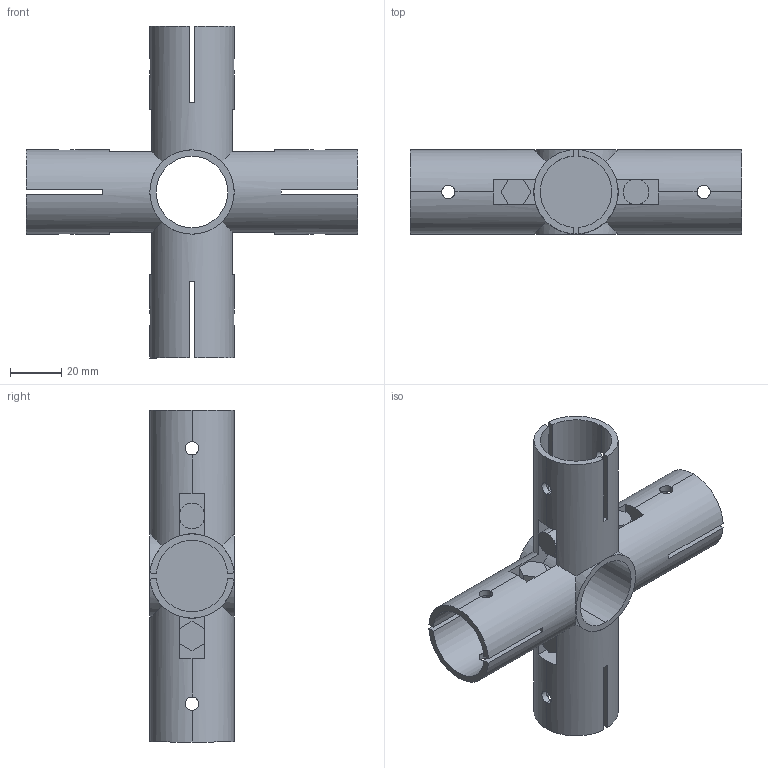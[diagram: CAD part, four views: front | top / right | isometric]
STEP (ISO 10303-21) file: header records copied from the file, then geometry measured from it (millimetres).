
FILE_DESCRIPTION (( 'STEP AP214' ), '1' );
FILE_NAME ('NSJ-5.STEP', '2023-10-11T06:50:23', ( 'catia' ), ( 'HP Inc.' ), 'SwSTEP 2.0', 'SolidWorks 2021', '' );
FILE_SCHEMA (( 'AUTOMOTIVE_DESIGN' ));
Length unit declared in the file: millimetre
Products named in the file (1): NSJ-5
Bounding box: 130 x 33 x 130 mm (x, y, z)
Volume: 98108.2 mm3; surface area: 42818.1 mm2
Topology: 1 solids, 1 shells, 144 faces, 406 edges, 260 vertices
Faces by surface type: plane 86, cylinder 58
Entity records: 5628 total; most frequent: CARTESIAN_POINT 1891, ORIENTED_EDGE 812, DIRECTION 740, EDGE_CURVE 406, VERTEX_POINT 260, VECTOR 250, LINE 250, AXIS2_PLACEMENT_3D 245
